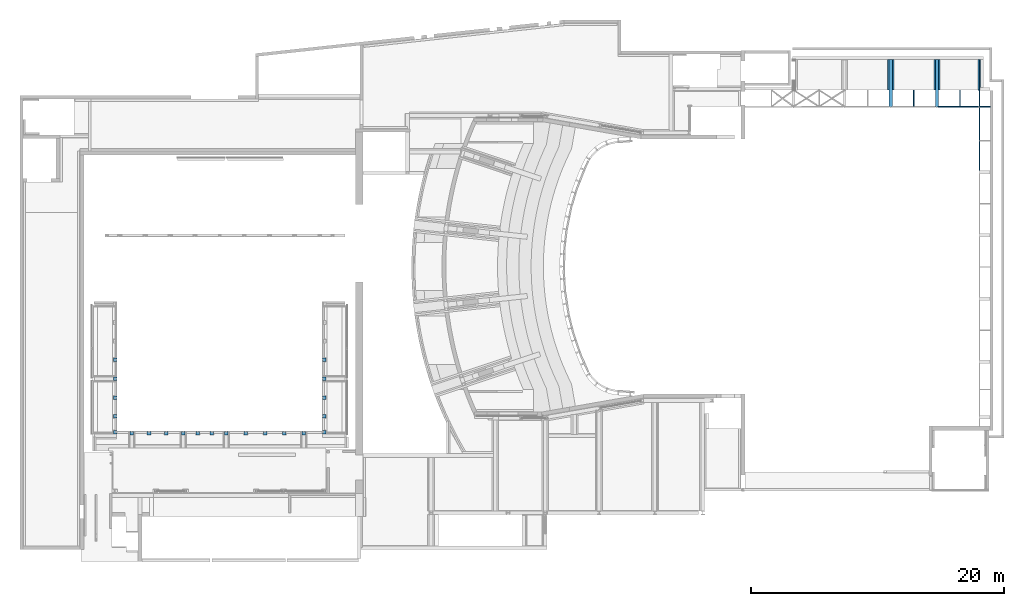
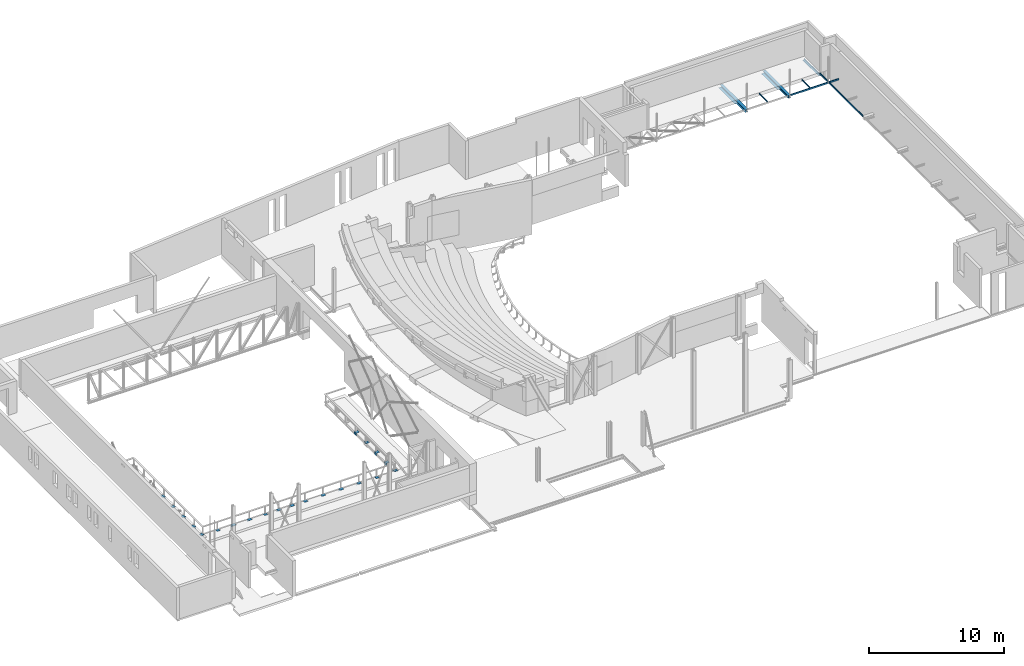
# One storey, part 30 of 68: 29 beams.
"""IFC2X3 building model written with IfcOpenShell, lengths in millimetres."""

from ifc_helpers import new_model, entity, si_unit, converted_unit, derived_unit, direction, frame, frame_2d, origin, origin_2d_with_axis, place, context, subcontext, project, spatial, polyline, circle_curve, parameter, trimmed, segment, composite_curve, rectangle, i_section, outline, extrude, source, transform, mapped, material, material_list, type_object, type_shapes, element, save


model = new_model("IFC2X3")

# Units and contexts
model_context = context("Model", 3, precision=0.01, world=origin(), true_north=direction((6.12303176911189e-17, 1.0)))
body_context = subcontext(model_context, "Body", "Model", "MODEL_VIEW")
ifc_project = project(units=[si_unit("LENGTHUNIT", "METRE", prefix="MILLI"), si_unit("AREAUNIT", "SQUARE_METRE", prefix="MILLI"), si_unit("VOLUMEUNIT", "CUBIC_METRE"), converted_unit("PLANEANGLEUNIT", "DEGREE", entity("IfcRatioMeasure", 0.0174532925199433), si_unit("PLANEANGLEUNIT", "RADIAN"), dimensions=[0, 0, 0, 0, 0, 0, 0]), si_unit("MASSUNIT", "GRAM", prefix="KILO"), derived_unit("MASSDENSITYUNIT", [(si_unit("MASSUNIT", "GRAM", prefix="KILO"), 1), (si_unit("LENGTHUNIT", "METRE"), -3)]), derived_unit("MOMENTOFINERTIAUNIT", [(si_unit("LENGTHUNIT", "METRE"), 4)]), si_unit("TIMEUNIT", "SECOND"), si_unit("FREQUENCYUNIT", "HERTZ"), si_unit("THERMODYNAMICTEMPERATUREUNIT", "DEGREE_CELSIUS"), derived_unit("THERMALTRANSMITTANCEUNIT", [(si_unit("MASSUNIT", "GRAM", prefix="KILO"), 1), (si_unit("THERMODYNAMICTEMPERATUREUNIT", "KELVIN"), -1), (si_unit("TIMEUNIT", "SECOND"), -3)]), derived_unit("VOLUMETRICFLOWRATEUNIT", [(si_unit("LENGTHUNIT", "METRE"), 3), (si_unit("TIMEUNIT", "SECOND"), -1)]), si_unit("ELECTRICCURRENTUNIT", "AMPERE"), si_unit("ELECTRICVOLTAGEUNIT", "VOLT"), si_unit("POWERUNIT", "WATT"), si_unit("FORCEUNIT", "NEWTON", prefix="KILO"), si_unit("ILLUMINANCEUNIT", "LUX"), si_unit("LUMINOUSFLUXUNIT", "LUMEN"), si_unit("LUMINOUSINTENSITYUNIT", "CANDELA"), derived_unit("USERDEFINED", [(si_unit("MASSUNIT", "GRAM", prefix="KILO"), -1), (si_unit("LENGTHUNIT", "METRE"), -2), (si_unit("TIMEUNIT", "SECOND"), 3), (si_unit("LUMINOUSFLUXUNIT", "LUMEN"), 1)]), derived_unit("LINEARVELOCITYUNIT", [(si_unit("LENGTHUNIT", "METRE"), 1), (si_unit("TIMEUNIT", "SECOND"), -1)]), si_unit("PRESSUREUNIT", "PASCAL"), derived_unit("USERDEFINED", [(si_unit("LENGTHUNIT", "METRE"), -2), (si_unit("MASSUNIT", "GRAM", prefix="KILO"), 1), (si_unit("TIMEUNIT", "SECOND"), -2)]), derived_unit("LINEARFORCEUNIT", [(si_unit("MASSUNIT", "GRAM", prefix="KILO"), 1), (si_unit("LENGTHUNIT", "METRE"), 1), (si_unit("TIMEUNIT", "SECOND"), -2), (si_unit("LENGTHUNIT", "METRE"), -1)]), derived_unit("PLANARFORCEUNIT", [(si_unit("MASSUNIT", "GRAM", prefix="KILO"), 1), (si_unit("LENGTHUNIT", "METRE"), 1), (si_unit("TIMEUNIT", "SECOND"), -2), (si_unit("LENGTHUNIT", "METRE"), -2)])], contexts=[model_context])

# Site, building, storey
site_placement = place(None, origin())
site = spatial("IfcSite", under=ifc_project, at=site_placement, Name="Theater aan de Parade", CompositionType="ELEMENT")
building_placement = place(site_placement, origin())
building = spatial("IfcBuilding", under=site, at=building_placement, Name="Theater aan de Parade", CompositionType="ELEMENT")
storey_placement = place(building_placement, frame((0.0, 0.0, 8750.0)))
storey = spatial("IfcBuildingStorey", under=building, at=storey_placement, Name="02 tweede verdieping", CompositionType="ELEMENT", Elevation=8750.0)

# Beams
ifc_material_1 = material(Name="00_PBT_MAT_staal_S355")
beam_type_1 = type_object("IfcBeamType", Name="28_PBT_SF_staal_L-profiel:S355_L150x150x15", PredefinedType="NOTDEFINED")
beam_1_placement = place(storey_placement, frame((86262.6683175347, 48822.0, 0.0), z_axis=(0.0, 0.0, 1.0), x_axis=(0.0, -1.0, 0.0)))
element("IfcBeam", 1, at=beam_1_placement, inside=storey, type_object=beam_type_1, material=ifc_material_1, Name="28_PBT_SF_staal_L-profiel:S355_L150x150x15", ObjectType="28_PBT_SF_staal_L-profiel:S355_L150x150x15", context=body_context, shape_type="SweptSolid", body=[
    extrude(outline(composite_curve([segment(polyline([(49.6666666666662, -93.3333333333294), (56.6666666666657, -93.3333333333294)]), True, "CONTINUOUS"), segment(polyline([(56.6666666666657, -93.3333333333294), (56.6666666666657, 56.6666666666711)]), True, "CONTINUOUS"), segment(polyline([(56.6666666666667, 56.6666666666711), (-93.3333333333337, 56.6666666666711)]), True, "CONTINUOUS"), segment(polyline([(-93.3333333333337, 56.6666666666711), (-93.3333333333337, 49.6666666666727)]), True, "CONTINUOUS"), segment(trimmed(circle_curve(frame_2d((-85.3333333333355, 49.6666666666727), x_axis=(-1.0, 0.0)), 7.99999999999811), [parameter(0.0)], [parameter(90.0000000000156)], True, "PARAMETER"), True, "CONTINUOUS"), segment(polyline([(-85.3333333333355, 41.6666666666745), (25.6666666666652, 41.6666666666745)]), True, "CONTINUOUS"), segment(trimmed(circle_curve(frame_2d((25.6666666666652, 25.6666666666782), x_axis=(0.0, 1.0)), 15.9999999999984), [parameter(270.0)], [parameter(0.0)], True, "PARAMETER"), False, "CONTINUOUS"), segment(polyline([(41.6666666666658, 25.6666666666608), (41.6666666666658, -85.3333333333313)]), True, "CONTINUOUS"), segment(trimmed(circle_curve(frame_2d((49.666666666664, -85.3333333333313), x_axis=(-1.0, 0.0)), 7.99999999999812), [parameter(0.0)], [parameter(90.0000000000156)], True, "PARAMETER"), True, "CONTINUOUS")], self_intersect=False)), frame((0.0, -14.1666666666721, 1051.66666666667), z_axis=(1.0, 0.0, 0.0), x_axis=(0.0, 0.0, -1.0)), (0.0, 0.0, 1.0), 2410.12765932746),
])
ifc_material_2 = material(Name="00_PBT_MAT_Lucht")
ifc_material_list_1 = material_list([ifc_material_2, ifc_material_1])
beam_type_2 = type_object("IfcBeamType", Name="28_PBT_SF_staal_H-profiel_met_onderplaat (void):S355_HE240A + onderplaat", PredefinedType="BEAM", material=ifc_material_list_1)
shared_shape_1 = source(origin(), body_context, "Body", "SweptSolid", [
    extrude(i_section(OverallWidth=239.999999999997, OverallDepth=230.0, WebThickness=7.49999999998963, FlangeThickness=11.9999999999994, FilletRadius=20.9999999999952, at=frame_2d((8.66151594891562e-12, 0.0), x_axis=(1.0, 0.0))), frame((79221.2707440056, 48822.0, 9875.0), z_axis=(0.0, -1.0, 0.0), x_axis=(-1.0, 0.0, 0.0)), (0.0, 0.0, 1.0), 3752.12765932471),
    extrude(rectangle(XDim=9.99999999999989, YDim=489.999999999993, at=frame_2d((8.66862137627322e-12, -1.08268949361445e-12), x_axis=(0.0, 1.0))), frame((79221.2707440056, 48822.0, 9755.0), z_axis=(0.0, -1.0, 0.0), x_axis=(-1.0, 0.0, 0.0)), (0.0, 0.0, 1.0), 2410.12765932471),
])
type_shapes(beam_type_2, [shared_shape_1])
beam_2_placement = place(storey_placement, frame((0.0, 0.0, -8750.0)))
element("IfcBeam", 2, at=beam_2_placement, inside=storey, type_object=beam_type_2, material=ifc_material_1, Name="28_PBT_SF_staal_H-profiel_met_onderplaat (void):S355_HE240A + onderplaat", ObjectType="28_PBT_SF_staal_H-profiel_met_onderplaat (void):S355_HE240A + onderplaat", context=body_context, shape_type="MappedRepresentation", body=[
    mapped(shared_shape_1, transform((0.0, 0.0, 0.0), scale=1.0)),
])
beam_type_3 = type_object("IfcBeamType", Name="28_PBT_SF_staal_UNP-profiel:S355_UNP140", PredefinedType="NOTDEFINED")
beam_3_placement = place(storey_placement, frame((82991.2707440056, 45087.4723406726, 0.0)))
element("IfcBeam", 3, at=beam_3_placement, inside=storey, type_object=beam_type_3, material=ifc_material_1, Name="28_PBT_SF_staal_UNP-profiel:S355_UNP140", ObjectType="28_PBT_SF_staal_UNP-profiel:S355_UNP140", context=body_context, shape_type="SweptSolid", body=[
    extrude(outline(composite_curve([segment(polyline([(-70.0, -33.1002123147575), (70.0, -33.1002123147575)]), True, "CONTINUOUS"), segment(polyline([(70.0, -33.1002123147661), (70.0, 26.8997876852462)]), True, "CONTINUOUS"), segment(polyline([(70.0, 26.8997876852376), (67.0159744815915, 26.8997876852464)]), True, "CONTINUOUS"), segment(trimmed(circle_curve(frame_2d((67.0159744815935, 21.8997876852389), x_axis=(0.0, 1.0)), 5.00000000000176), [parameter(0.0)], [parameter(85.4260787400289)], True, "PARAMETER"), True, "CONTINUOUS"), segment(polyline([(62.031898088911, 22.2985137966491), (58.8962038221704, -16.8976645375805)]), True, "CONTINUOUS"), segment(trimmed(circle_curve(frame_2d((48.9280510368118, -16.10021231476), x_axis=(0.996815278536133, -0.079745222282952)), 9.99999999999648), [parameter(274.573921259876)], [parameter(0.0)], True, "PARAMETER"), False, "CONTINUOUS"), segment(polyline([(48.9280510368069, -26.1002123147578), (-48.9280510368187, -26.100212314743)]), True, "CONTINUOUS"), segment(trimmed(circle_curve(frame_2d((-48.9280510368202, -16.100212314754), x_axis=(0.0, -1.0)), 9.99999999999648), [parameter(274.573921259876)], [parameter(0.0)], True, "PARAMETER"), False, "CONTINUOUS"), segment(polyline([(-58.8962038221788, -16.8976645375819), (-62.0318980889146, 22.2985137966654)]), True, "CONTINUOUS"), segment(trimmed(circle_curve(frame_2d((-67.0159744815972, 21.8997876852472), x_axis=(0.996815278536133, 0.0797452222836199)), 5.00000000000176), [parameter(0.0)], [parameter(85.4260787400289)], True, "PARAMETER"), True, "CONTINUOUS"), segment(polyline([(-67.0159744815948, 26.899787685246), (-70.0, 26.8997876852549)]), True, "CONTINUOUS"), segment(polyline([(-70.0, 26.8997876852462), (-70.0, -33.1002123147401)]), True, "CONTINUOUS")], self_intersect=False)), frame((0.0, 15.5002123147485, 1210.0), z_axis=(1.0, 0.0, 0.0), x_axis=(0.0, 0.0, -1.0)), (0.0, 0.0, 1.0), 4103.7292559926),
])
beam_4_placement = place(storey_placement, frame((86243.6688810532, 46411.8723406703, 0.0), z_axis=(0.0, 0.0, 1.0), x_axis=(0.0, -1.0, 0.0)))
element("IfcBeam", 4, at=beam_4_placement, inside=storey, type_object=beam_type_3, material=ifc_material_1, Name="28_PBT_SF_staal_UNP-profiel:S355_UNP140", ObjectType="28_PBT_SF_staal_UNP-profiel:S355_UNP140", context=body_context, shape_type="SweptSolid", body=[
    extrude(outline(composite_curve([segment(polyline([(-70.0, -33.1002123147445), (70.0, -33.1002123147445)]), True, "CONTINUOUS"), segment(polyline([(70.0, -33.1002123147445), (70.0, 26.8997876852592)]), True, "CONTINUOUS"), segment(polyline([(70.0, 26.8997876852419), (67.0159744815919, 26.8997876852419)]), True, "CONTINUOUS"), segment(trimmed(circle_curve(frame_2d((67.0159744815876, 21.899787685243), x_axis=(0.0, 1.0)), 4.99999999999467), [parameter(0.0)], [parameter(85.4260787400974)], True, "PARAMETER"), True, "CONTINUOUS"), segment(polyline([(62.0318980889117, 22.2985137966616), (58.8962038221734, -16.8976645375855)]), True, "CONTINUOUS"), segment(trimmed(circle_curve(frame_2d((48.9280510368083, -16.1002123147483), x_axis=(0.996815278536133, -0.0797452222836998)), 10.0000000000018), [parameter(274.57392125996)], [parameter(0.0)], True, "PARAMETER"), False, "CONTINUOUS"), segment(polyline([(48.9280510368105, -26.1002123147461), (-48.9280510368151, -26.1002123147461)]), True, "CONTINUOUS"), segment(trimmed(circle_curve(frame_2d((-48.9280510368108, -16.1002123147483), x_axis=(0.0, -1.0)), 10.0000000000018), [parameter(274.57392125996)], [parameter(0.0)], True, "PARAMETER"), False, "CONTINUOUS"), segment(polyline([(-58.8962038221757, -16.8976645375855), (-62.031898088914, 22.2985137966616)]), True, "CONTINUOUS"), segment(trimmed(circle_curve(frame_2d((-67.0159744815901, 21.899787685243), x_axis=(0.996815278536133, 0.0797452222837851)), 4.99999999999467), [parameter(0.0)], [parameter(85.4260787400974)], True, "PARAMETER"), True, "CONTINUOUS"), segment(polyline([(-67.0159744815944, 26.8997876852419), (-70.0, 26.8997876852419)]), True, "CONTINUOUS"), segment(polyline([(-70.0, 26.8997876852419), (-70.0, -33.1002123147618)]), True, "CONTINUOUS")], self_intersect=False)), frame((0.0, 15.5002123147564, 1210.0), z_axis=(1.0, 0.0, 0.0), x_axis=(0.0, 0.0, -1.0)), (0.0, 0.0, 1.0), 1281.99999999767),
])
beam_5_placement = place(storey_placement, frame((86243.6688810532, 45069.8723406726, 0.0), z_axis=(0.0, 0.0, 1.0), x_axis=(0.0, -1.0, 0.0)))
element("IfcBeam", 5, at=beam_5_placement, inside=storey, type_object=beam_type_3, material=ifc_material_1, Name="28_PBT_SF_staal_UNP-profiel:S355_UNP140", ObjectType="28_PBT_SF_staal_UNP-profiel:S355_UNP140", context=body_context, shape_type="SweptSolid", body=[
    extrude(outline(composite_curve([segment(polyline([(-70.0, -33.1002123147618), (70.0, -33.1002123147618)]), True, "CONTINUOUS"), segment(polyline([(70.0, -33.1002123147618), (70.0, 26.8997876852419)]), True, "CONTINUOUS"), segment(polyline([(70.0, 26.8997876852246), (67.0159744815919, 26.8997876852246)]), True, "CONTINUOUS"), segment(trimmed(circle_curve(frame_2d((67.0159744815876, 21.8997876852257), x_axis=(0.0, 1.0)), 4.99999999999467), [parameter(0.0)], [parameter(85.4260787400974)], True, "PARAMETER"), True, "CONTINUOUS"), segment(polyline([(62.0318980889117, 22.2985137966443), (58.8962038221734, -16.8976645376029)]), True, "CONTINUOUS"), segment(trimmed(circle_curve(frame_2d((48.9280510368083, -16.1002123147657), x_axis=(0.996815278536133, -0.0797452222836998)), 10.0000000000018), [parameter(274.57392125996)], [parameter(0.0)], True, "PARAMETER"), False, "CONTINUOUS"), segment(polyline([(48.9280510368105, -26.1002123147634), (-48.9280510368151, -26.1002123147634)]), True, "CONTINUOUS"), segment(trimmed(circle_curve(frame_2d((-48.9280510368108, -16.1002123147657), x_axis=(0.0, -1.0)), 10.0000000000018), [parameter(274.57392125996)], [parameter(0.0)], True, "PARAMETER"), False, "CONTINUOUS"), segment(polyline([(-58.8962038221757, -16.8976645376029), (-62.031898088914, 22.2985137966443)]), True, "CONTINUOUS"), segment(trimmed(circle_curve(frame_2d((-67.0159744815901, 21.8997876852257), x_axis=(0.996815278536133, 0.0797452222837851)), 4.99999999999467), [parameter(0.0)], [parameter(85.4260787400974)], True, "PARAMETER"), True, "CONTINUOUS"), segment(polyline([(-67.0159744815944, 26.8997876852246), (-70.0, 26.8997876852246)]), True, "CONTINUOUS"), segment(polyline([(-70.0, 26.8997876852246), (-70.0, -33.1002123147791)]), True, "CONTINUOUS")], self_intersect=False)), frame((0.0, 15.500212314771, 1210.0), z_axis=(1.0, 0.0, 0.0), x_axis=(0.0, 0.0, -1.0)), (0.0, 0.0, 1.0), 5019.87234067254),
])
ifc_material_list_2 = material_list([ifc_material_1, ifc_material_2])
beam_type_4 = type_object("IfcBeamType", Name="28_PBT_SF_staal_H-profiel_met_onderplaat (void):S355_HE240A + onderplaat", PredefinedType="BEAM", material=ifc_material_list_2)
shared_shape_2 = source(origin(), body_context, "Body", "SweptSolid", [
    extrude(i_section(OverallWidth=239.999999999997, OverallDepth=230.0, WebThickness=7.49999999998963, FlangeThickness=11.9999999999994, FilletRadius=20.9999999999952, at=frame_2d((-8.66151594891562e-12, 0.0), x_axis=(1.0, 0.0))), frame((82871.2707440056, 48822.0, 9875.0), z_axis=(0.0, -1.0, 0.0), x_axis=(-1.0, 0.0, 0.0)), (0.0, 0.0, 1.0), 3752.12765932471),
    extrude(rectangle(XDim=9.99999999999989, YDim=489.999999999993, at=frame_2d((8.66862137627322e-12, -1.08268949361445e-12), x_axis=(0.0, 1.0))), frame((82871.2707440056, 48822.0, 9755.0), z_axis=(0.0, -1.0, 0.0), x_axis=(-1.0, 0.0, 0.0)), (0.0, 0.0, 1.0), 2410.12765932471),
])
type_shapes(beam_type_4, [shared_shape_2])
beam_6_placement = place(storey_placement, frame((0.0, 0.0, -8750.0)))
element("IfcBeam", 6, at=beam_6_placement, inside=storey, type_object=beam_type_4, material=ifc_material_1, Name="28_PBT_SF_staal_H-profiel_met_onderplaat (void):S355_HE240A + onderplaat", ObjectType="28_PBT_SF_staal_H-profiel_met_onderplaat (void):S355_HE240A + onderplaat", context=body_context, shape_type="MappedRepresentation", body=[
    mapped(shared_shape_2, transform((0.0, 0.0, 0.0), scale=1.0)),
])
beam_type_5 = type_object("IfcBeamType", Name="28_PBT_SF_staal_IPE-profiel:S355_IPE100", PredefinedType="NOTDEFINED")
beam_7_placement = place(storey_placement, frame((81046.2707440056, 46411.8723406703, 0.0), z_axis=(0.0, 0.0, 1.0), x_axis=(0.0, -1.0, 0.0)))
element("IfcBeam", 7, at=beam_7_placement, inside=storey, type_object=beam_type_5, material=ifc_material_1, Name="28_PBT_SF_staal_IPE-profiel:S355_IPE100", ObjectType="28_PBT_SF_staal_IPE-profiel:S355_IPE100", context=body_context, shape_type="SweptSolid", body=[
    extrude(outline(composite_curve([segment(polyline([(44.3000000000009, -27.5000000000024), (50.0, -27.5000000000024)]), True, "CONTINUOUS"), segment(polyline([(50.0, -27.5000000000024), (50.0, 27.5000000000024)]), True, "CONTINUOUS"), segment(polyline([(50.0, 27.5000000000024), (44.3000000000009, 27.5000000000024)]), True, "CONTINUOUS"), segment(polyline([(44.3000000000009, 27.5000000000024), (44.3000000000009, 9.05000000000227)]), True, "CONTINUOUS"), segment(trimmed(circle_curve(frame_2d((37.3000000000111, 9.05000000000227), x_axis=(1.0, 0.0)), 6.99999999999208), [parameter(269.999999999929)], [parameter(0.0)], True, "PARAMETER"), False, "CONTINUOUS"), segment(polyline([(37.3000000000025, 2.05000000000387), (-37.2999999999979, 2.05000000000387)]), True, "CONTINUOUS"), segment(trimmed(circle_curve(frame_2d((-37.3000000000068, 9.05000000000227), x_axis=(0.0, -1.0)), 6.99999999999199), [parameter(269.999999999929)], [parameter(0.0)], True, "PARAMETER"), False, "CONTINUOUS"), segment(polyline([(-44.2999999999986, 9.05000000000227), (-44.2999999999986, 27.5000000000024)]), True, "CONTINUOUS"), segment(polyline([(-44.2999999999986, 27.5000000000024), (-50.0, 27.5000000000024)]), True, "CONTINUOUS"), segment(polyline([(-50.0, 27.5000000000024), (-50.0, -27.5000000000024)]), True, "CONTINUOUS"), segment(polyline([(-50.0, -27.5000000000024), (-44.2999999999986, -27.5000000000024)]), True, "CONTINUOUS"), segment(polyline([(-44.3000000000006, -27.5000000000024), (-44.3000000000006, -9.05000000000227)]), True, "CONTINUOUS"), segment(trimmed(circle_curve(frame_2d((-37.3000000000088, -9.05000000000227), x_axis=(-1.0, 0.0)), 6.99999999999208), [parameter(269.999999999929)], [parameter(0.0)], True, "PARAMETER"), False, "CONTINUOUS"), segment(polyline([(-37.3000000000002, -2.05000000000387), (37.3000000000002, -2.05000000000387)]), True, "CONTINUOUS"), segment(trimmed(circle_curve(frame_2d((37.3000000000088, -9.05000000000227), x_axis=(0.0, 1.0)), 6.99999999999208), [parameter(269.999999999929)], [parameter(0.0)], True, "PARAMETER"), False, "CONTINUOUS"), segment(polyline([(44.3000000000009, -9.05000000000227), (44.3000000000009, -27.5000000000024)]), True, "CONTINUOUS")], self_intersect=False)), frame((0.0, 0.0, 1230.0), z_axis=(1.0, 0.0, 0.0), x_axis=(0.0, 0.0, -1.0)), (0.0, 0.0, 1.0), 1281.99999999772),
])
beam_8_placement = place(storey_placement, frame((84696.2707440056, 46411.8723406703, 0.0), z_axis=(0.0, 0.0, 1.0), x_axis=(0.0, -1.0, 0.0)))
element("IfcBeam", 8, at=beam_8_placement, inside=storey, type_object=beam_type_5, material=ifc_material_1, Name="28_PBT_SF_staal_IPE-profiel:S355_IPE100", ObjectType="28_PBT_SF_staal_IPE-profiel:S355_IPE100", context=body_context, shape_type="SweptSolid", body=[
    extrude(outline(composite_curve([segment(polyline([(44.3000000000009, -27.4999999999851), (50.0, -27.4999999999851)]), True, "CONTINUOUS"), segment(polyline([(50.0, -27.4999999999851), (50.0, 27.5000000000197)]), True, "CONTINUOUS"), segment(polyline([(50.0, 27.5000000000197), (44.3000000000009, 27.5000000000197)]), True, "CONTINUOUS"), segment(polyline([(44.3000000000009, 27.5000000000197), (44.3000000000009, 9.0500000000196)]), True, "CONTINUOUS"), segment(trimmed(circle_curve(frame_2d((37.3000000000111, 9.0500000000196), x_axis=(1.0, 0.0)), 6.99999999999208), [parameter(269.999999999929)], [parameter(0.0)], True, "PARAMETER"), False, "CONTINUOUS"), segment(polyline([(37.3000000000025, 2.05000000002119), (-37.2999999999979, 2.05000000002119)]), True, "CONTINUOUS"), segment(trimmed(circle_curve(frame_2d((-37.3000000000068, 9.0500000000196), x_axis=(0.0, -1.0)), 6.99999999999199), [parameter(269.999999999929)], [parameter(0.0)], True, "PARAMETER"), False, "CONTINUOUS"), segment(polyline([(-44.2999999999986, 9.0500000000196), (-44.2999999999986, 27.5000000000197)]), True, "CONTINUOUS"), segment(polyline([(-44.2999999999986, 27.5000000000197), (-50.0, 27.5000000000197)]), True, "CONTINUOUS"), segment(polyline([(-50.0, 27.5000000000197), (-50.0, -27.4999999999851)]), True, "CONTINUOUS"), segment(polyline([(-50.0, -27.4999999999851), (-44.2999999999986, -27.4999999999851)]), True, "CONTINUOUS"), segment(polyline([(-44.3000000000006, -27.4999999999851), (-44.3000000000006, -9.04999999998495)]), True, "CONTINUOUS"), segment(trimmed(circle_curve(frame_2d((-37.3000000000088, -9.04999999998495), x_axis=(-1.0, 0.0)), 6.99999999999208), [parameter(269.999999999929)], [parameter(0.0)], True, "PARAMETER"), False, "CONTINUOUS"), segment(polyline([(-37.3000000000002, -2.04999999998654), (37.3000000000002, -2.04999999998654)]), True, "CONTINUOUS"), segment(trimmed(circle_curve(frame_2d((37.3000000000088, -9.04999999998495), x_axis=(0.0, 1.0)), 6.99999999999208), [parameter(269.999999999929)], [parameter(0.0)], True, "PARAMETER"), False, "CONTINUOUS"), segment(polyline([(44.3000000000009, -9.04999999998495), (44.3000000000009, -27.4999999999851)]), True, "CONTINUOUS")], self_intersect=False)), frame((0.0, 0.0, 1230.0), z_axis=(1.0, 0.0, 0.0), x_axis=(0.0, 0.0, -1.0)), (0.0, 0.0, 1.0), 1281.99999999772),
])
beam_type_6 = type_object("IfcBeamType", Name="28_PBT_SF_staal_voetplaat_vloerrand:voetplaat_280x280x15_geen kopplaat", PredefinedType="NOTDEFINED")
beam_9_placement = place(storey_placement, origin())
element("IfcBeam", 9, at=beam_9_placement, inside=storey, type_object=beam_type_6, material=ifc_material_1, Name="28_PBT_SF_staal_voetplaat_vloerrand:voetplaat_280x280x15_geen kopplaat", ObjectType="28_PBT_SF_staal_voetplaat_vloerrand:voetplaat_280x280x15_geen kopplaat", context=body_context, shape_type="SweptSolid", body=[
    extrude(rectangle(XDim=15.0000000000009, YDim=280.000000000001, at=origin_2d_with_axis()), frame((17695.8570032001, 23568.2922985, -62.500000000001), z_axis=(1.0, 0.0, 0.0), x_axis=(0.0, 0.0, -1.0)), (0.0, 0.0, 1.0), 279.999999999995),
])
beam_10_placement = place(storey_placement, origin())
element("IfcBeam", 10, at=beam_10_placement, inside=storey, type_object=beam_type_6, material=ifc_material_1, Name="28_PBT_SF_staal_voetplaat_vloerrand:voetplaat_280x280x15_geen kopplaat", ObjectType="28_PBT_SF_staal_voetplaat_vloerrand:voetplaat_280x280x15_geen kopplaat", context=body_context, shape_type="SweptSolid", body=[
    extrude(rectangle(XDim=15.0000000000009, YDim=279.999999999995, at=origin_2d_with_axis()), frame((23092.8581798, 19268.3084468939, -62.500000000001), z_axis=(1.0, 0.0, 0.0), x_axis=(0.0, 0.0, -1.0)), (0.0, 0.0, 1.0), 279.999999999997),
])
beam_11_placement = place(storey_placement, origin())
element("IfcBeam", 11, at=beam_11_placement, inside=storey, type_object=beam_type_6, material=ifc_material_1, Name="28_PBT_SF_staal_voetplaat_vloerrand:voetplaat_280x280x15_geen kopplaat", ObjectType="28_PBT_SF_staal_voetplaat_vloerrand:voetplaat_280x280x15_geen kopplaat", context=body_context, shape_type="SweptSolid", body=[
    extrude(rectangle(XDim=15.0000000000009, YDim=279.999999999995, at=origin_2d_with_axis()), frame((19016.8570058, 19268.308446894, -62.500000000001), z_axis=(1.0, 0.0, 0.0), x_axis=(0.0, 0.0, -1.0)), (0.0, 0.0, 1.0), 279.999999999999),
])
beam_12_placement = place(storey_placement, origin())
element("IfcBeam", 12, at=beam_12_placement, inside=storey, type_object=beam_type_6, material=ifc_material_1, Name="28_PBT_SF_staal_voetplaat_vloerrand:voetplaat_280x280x15_geen kopplaat", ObjectType="28_PBT_SF_staal_voetplaat_vloerrand:voetplaat_280x280x15_geen kopplaat", context=body_context, shape_type="SweptSolid", body=[
    extrude(rectangle(XDim=15.0000000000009, YDim=280.000000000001, at=frame_2d((0.0, 2.1600499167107e-12), x_axis=(1.0, 0.0))), frame((17695.8570032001, 19343.308446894, -37.5000000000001), z_axis=(1.0, 0.0, 0.0), x_axis=(0.0, 0.0, -1.0)), (0.0, 0.0, 1.0), 279.999999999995),
])
beam_13_placement = place(storey_placement, origin())
element("IfcBeam", 13, at=beam_13_placement, inside=storey, type_object=beam_type_6, material=ifc_material_1, Name="28_PBT_SF_staal_voetplaat_vloerrand:voetplaat_280x280x15_geen kopplaat", ObjectType="28_PBT_SF_staal_voetplaat_vloerrand:voetplaat_280x280x15_geen kopplaat", context=body_context, shape_type="SweptSolid", body=[
    extrude(rectangle(XDim=15.0000000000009, YDim=279.999999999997, at=frame_2d((0.0, 0.0), x_axis=(0.0, 1.0))), frame((34231.8569737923, 23568.2922985, -62.500000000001), z_axis=(1.0, 0.0, 0.0), x_axis=(0.0, -1.0, 0.0)), (0.0, 0.0, 1.0), 279.999999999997),
])
beam_14_placement = place(storey_placement, origin())
element("IfcBeam", 14, at=beam_14_placement, inside=storey, type_object=beam_type_6, material=ifc_material_1, Name="28_PBT_SF_staal_voetplaat_vloerrand:voetplaat_280x280x15_geen kopplaat", ObjectType="28_PBT_SF_staal_voetplaat_vloerrand:voetplaat_280x280x15_geen kopplaat", context=body_context, shape_type="SweptSolid", body=[
    extrude(rectangle(XDim=15.0000000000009, YDim=279.999999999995, at=frame_2d((1.08002495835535e-12, 0.0), x_axis=(0.0, 1.0))), frame((32620.358192, 19268.3084468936, -62.500000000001), z_axis=(1.0, 0.0, 0.0), x_axis=(0.0, -1.0, 0.0)), (0.0, 0.0, 1.0), 279.999999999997),
])
beam_15_placement = place(storey_placement, origin())
element("IfcBeam", 15, at=beam_15_placement, inside=storey, type_object=beam_type_6, material=ifc_material_1, Name="28_PBT_SF_staal_voetplaat_vloerrand:voetplaat_280x280x15_geen kopplaat", ObjectType="28_PBT_SF_staal_voetplaat_vloerrand:voetplaat_280x280x15_geen kopplaat", context=body_context, shape_type="SweptSolid", body=[
    extrude(rectangle(XDim=15.0000000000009, YDim=280.000000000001, at=frame_2d((2.1600499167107e-12, 0.0), x_axis=(0.0, 1.0))), frame((34231.8569737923, 19343.3084468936, -37.5000000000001), z_axis=(1.0, 0.0, 0.0), x_axis=(0.0, -1.0, 0.0)), (0.0, 0.0, 1.0), 279.999999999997),
])
beam_16_placement = place(storey_placement, origin())
element("IfcBeam", 16, at=beam_16_placement, inside=storey, type_object=beam_type_6, material=ifc_material_1, Name="28_PBT_SF_staal_voetplaat_vloerrand:voetplaat_280x280x15_geen kopplaat", ObjectType="28_PBT_SF_staal_voetplaat_vloerrand:voetplaat_280x280x15_geen kopplaat", context=body_context, shape_type="SweptSolid", body=[
    extrude(rectangle(XDim=15.0000000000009, YDim=279.999999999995, at=origin_2d_with_axis()), frame((26495.8581798, 19268.3084468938, -62.500000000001), z_axis=(1.0, 0.0, 0.0), x_axis=(0.0, 0.0, -1.0)), (0.0, 0.0, 1.0), 279.999999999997),
])
beam_type_7 = type_object("IfcBeamType", Name="28_PBT_SF_staal_voetplaat_vloerrand:voetplaat_280x280x15_kopplaat_280x210x15", PredefinedType="BEAM", material=ifc_material_1)
shared_shape_3 = source(origin(), body_context, "Body", "SweptSolid", [
    extrude(rectangle(XDim=15.0, YDim=280.0, at=frame_2d((1.64535052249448e-12, 0.0), x_axis=(1.0, 0.0))), frame((0.0, 7.50000000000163, -245.0), z_axis=(0.0, 0.0, 1.0), x_axis=(0.0, -1.0, 0.0)), (0.0, 0.0, 1.0), 229.999999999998),
    extrude(rectangle(XDim=279.999999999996, YDim=280.0, at=frame_2d((-1.4210854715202e-14, 1.4210854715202e-14), x_axis=(1.0, 0.0))), frame((0.0, -125.0, -15.0), z_axis=(0.0, 0.0, 1.0), x_axis=(0.0, -1.0, 0.0)), (0.0, 0.0, 1.0), 15.0000000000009),
])
type_shapes(beam_type_7, [shared_shape_3])
for number, where, z_axis, x_axis, name in (
    (17, (17960.8570032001, 25068.2922985, -30.0), (0.0, 0.0, 1.0), (0.0, -1.0, 0.0), "28_PBT_SF_staal_voetplaat_vloerrand:voetplaat_280x280x15_kopplaat_280x210x15"),
    (18, (17960.8570032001, 22068.2922985, -30.0), (0.0, 0.0, 1.0), (0.0, -1.0, 0.0), "28_PBT_SF_staal_voetplaat_vloerrand:voetplaat_280x280x15_kopplaat_280x210x15"),
    (19, (17960.8570032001, 20593.2922985, -30.0), (0.0, 0.0, 1.0), (0.0, -1.0, 0.0), "28_PBT_SF_staal_voetplaat_vloerrand:voetplaat_280x280x15_kopplaat_280x210x15"),
):
    element("IfcBeam", number, at=place(storey_placement, frame(where, z_axis=z_axis, x_axis=x_axis)), inside=storey, type_object=beam_type_7, material=ifc_material_1, Name=name, ObjectType="28_PBT_SF_staal_voetplaat_vloerrand:voetplaat_280x280x15_kopplaat_280x210x15", context=body_context, shape_type="MappedRepresentation", body=[
        mapped(shared_shape_3, transform((0.0, 0.0, 0.0), scale=1.0)),
    ])
for number, where, name in (
    (20, (21872.8581798, 19393.3084468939, -30.0), "28_PBT_SF_staal_voetplaat_vloerrand:voetplaat_280x280x15_kopplaat_280x210x15"),
    (21, (20512.8581798, 19393.308446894, -30.0), "28_PBT_SF_staal_voetplaat_vloerrand:voetplaat_280x280x15_kopplaat_280x210x15"),
    (22, (24372.8581798, 19393.3084468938, -30.0), "28_PBT_SF_staal_voetplaat_vloerrand:voetplaat_280x280x15_kopplaat_280x210x15"),
    (23, (25495.8581798, 19393.3084468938, -30.0), "28_PBT_SF_staal_voetplaat_vloerrand:voetplaat_280x280x15_kopplaat_280x210x15"),
):
    element("IfcBeam", number, at=place(storey_placement, frame(where)), inside=storey, type_object=beam_type_7, material=ifc_material_1, Name=name, ObjectType="28_PBT_SF_staal_voetplaat_vloerrand:voetplaat_280x280x15_kopplaat_280x210x15", context=body_context, shape_type="MappedRepresentation", body=[
        mapped(shared_shape_3, transform((0.0, 0.0, 0.0), scale=1.0)),
    ])
beam_type_8 = type_object("IfcBeamType", Name="28_PBT_SF_staal_voetplaat_vloerrand:voetplaat_280x280x15_kopplaat_280x210x15", PredefinedType="BEAM", material=ifc_material_1)
shared_shape_4 = source(origin(), body_context, "Body", "SweptSolid", [
    extrude(rectangle(XDim=15.0000000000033, YDim=280.0, at=frame_2d((8.22453216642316e-13, 0.0), x_axis=(1.0, 0.0))), frame((0.0, -7.50000000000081, -245.0), z_axis=(0.0, 0.0, 1.0), x_axis=(0.0, -1.0, 0.0)), (0.0, 0.0, 1.0), 229.999999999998),
    extrude(rectangle(XDim=279.999999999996, YDim=280.000000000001, at=origin_2d_with_axis()), frame((0.0, 125.0, -15.0), z_axis=(0.0, 0.0, 1.0), x_axis=(0.0, -1.0, 0.0)), (0.0, 0.0, 1.0), 15.0000000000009),
])
type_shapes(beam_type_8, [shared_shape_4])
for number, where, z_axis, x_axis, name in (
    (24, (28170.358192, 19393.3084468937, -30.0), (0.0, 0.0, 1.0), (-1.0, 0.0, 0.0), "28_PBT_SF_staal_voetplaat_vloerrand:voetplaat_280x280x15_kopplaat_280x210x15"),
    (25, (34246.8569737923, 25068.2922985, -30.0), (0.0, 0.0, 1.0), (0.0, -1.0, 0.0), "28_PBT_SF_staal_voetplaat_vloerrand:voetplaat_280x280x15_kopplaat_280x210x15"),
    (26, (34246.8569737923, 22068.2922985, -30.0), (0.0, 0.0, 1.0), (0.0, -1.0, 0.0), "28_PBT_SF_staal_voetplaat_vloerrand:voetplaat_280x280x15_kopplaat_280x210x15"),
    (27, (34246.8569737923, 20593.2922985, -30.0), (0.0, 0.0, 1.0), (0.0, -1.0, 0.0), "28_PBT_SF_staal_voetplaat_vloerrand:voetplaat_280x280x15_kopplaat_280x210x15"),
    (28, (29700.358192, 19393.3084468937, -30.0), (0.0, 0.0, 1.0), (-1.0, 0.0, 0.0), "28_PBT_SF_staal_voetplaat_vloerrand:voetplaat_280x280x15_kopplaat_280x210x15"),
    (29, (31230.358192, 19393.3084468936, -30.0), (0.0, 0.0, 1.0), (-1.0, 0.0, 0.0), "28_PBT_SF_staal_voetplaat_vloerrand:voetplaat_280x280x15_kopplaat_280x210x15"),
):
    element("IfcBeam", number, at=place(storey_placement, frame(where, z_axis=z_axis, x_axis=x_axis)), inside=storey, type_object=beam_type_8, material=ifc_material_1, Name=name, ObjectType="28_PBT_SF_staal_voetplaat_vloerrand:voetplaat_280x280x15_kopplaat_280x210x15", context=body_context, shape_type="MappedRepresentation", body=[
        mapped(shared_shape_4, transform((0.0, 0.0, 0.0), scale=1.0)),
    ])

save(model, "model.ifc")
